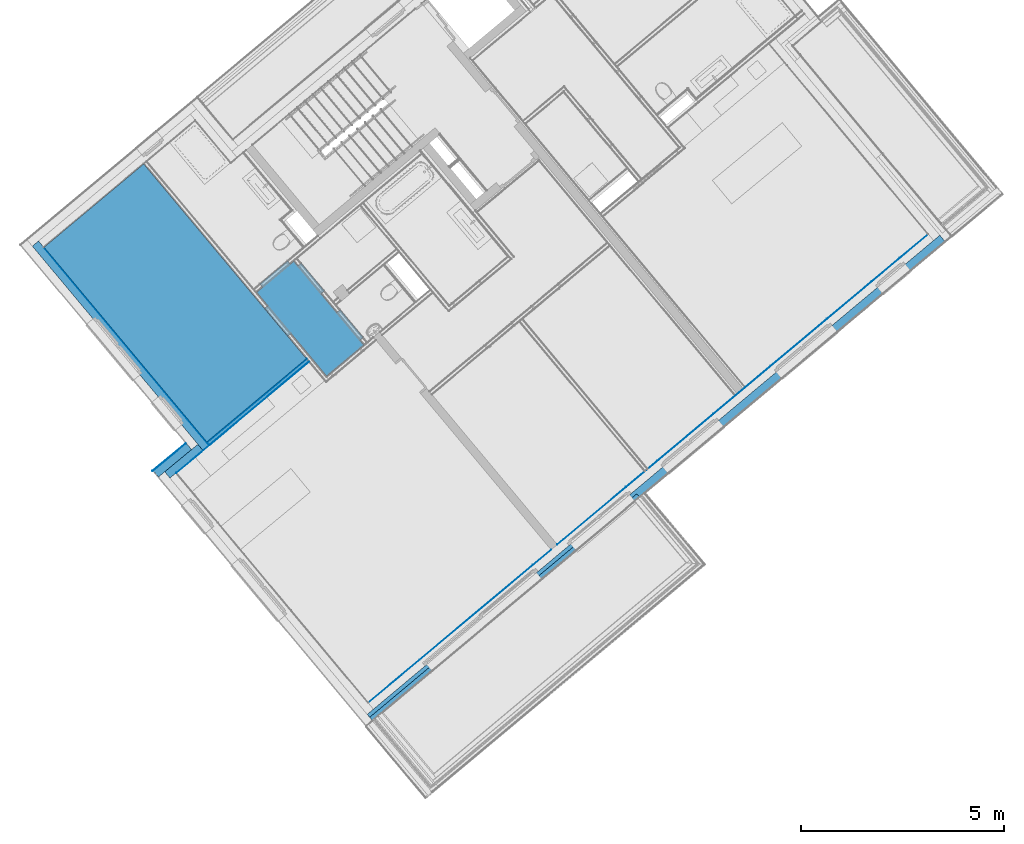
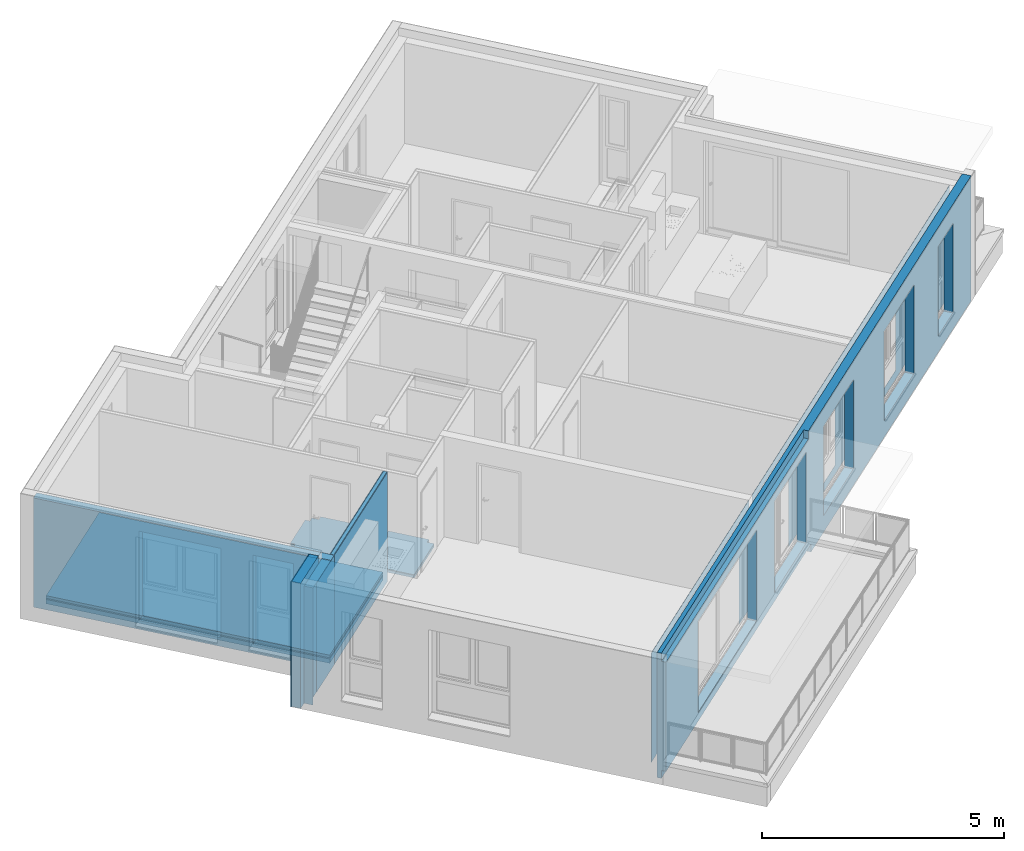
# One storey, part 25 of 53: 17 building element parts, 7 openings, 6 elements without a shape of their own.
"""IFC4 building model written with IfcOpenShell, lengths in metres."""

from ifc_helpers import new_model, entity, si_unit, converted_unit, derived_unit, direction, frame, origin_with_axes, place, context, subcontext, project, spatial, polygons, material, type_object, element, aggregate, save


model = new_model("IFC4")

# Units and contexts
model_context = context("Model", 3, precision=1e-05, world=origin_with_axes(), true_north=direction((0.0, 1.0)))
body_context = subcontext(model_context, "Body", "Model", "MODEL_VIEW")
ifc_project = project(units=[si_unit("LENGTHUNIT", "METRE"), si_unit("AREAUNIT", "SQUARE_METRE"), si_unit("VOLUMEUNIT", "CUBIC_METRE"), converted_unit("PLANEANGLEUNIT", "DEGREE", entity("IfcPlaneAngleMeasure", 0.0174532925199), si_unit("PLANEANGLEUNIT", "RADIAN"), dimensions=[0, 0, 0, 0, 0, 0, 0]), converted_unit("TIMEUNIT", "Year", entity("IfcTimeMeasure", 31556926.0), si_unit("TIMEUNIT", "SECOND"), dimensions=[0, 0, 1, 0, 0, 0, 0]), si_unit("MASSUNIT", "GRAM", prefix="KILO"), si_unit("THERMODYNAMICTEMPERATUREUNIT", "DEGREE_CELSIUS"), si_unit("LUMINOUSINTENSITYUNIT", "LUMEN"), si_unit("ENERGYUNIT", "JOULE", prefix="MEGA"), derived_unit("THERMALCONDUCTANCEUNIT", [(si_unit("POWERUNIT", "WATT"), 1), (si_unit("LENGTHUNIT", "METRE"), -1), (si_unit("THERMODYNAMICTEMPERATUREUNIT", "KELVIN"), -1)]), derived_unit("SPECIFICHEATCAPACITYUNIT", [(si_unit("ENERGYUNIT", "JOULE"), 1), (si_unit("MASSUNIT", "GRAM", prefix="KILO"), -1), (si_unit("THERMODYNAMICTEMPERATUREUNIT", "KELVIN"), -1)]), derived_unit("MASSDENSITYUNIT", [(si_unit("MASSUNIT", "GRAM", prefix="KILO"), 1), (si_unit("VOLUMEUNIT", "CUBIC_METRE"), -1)])], contexts=[model_context])

# Site, building, storey
site_placement = place(None, frame((-0.00153261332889, -0.00661245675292, 0.0), z_axis=(0.0, 0.0, 1.0), x_axis=(1.0, 0.0, 0.0)))
site = spatial("IfcSite", under=ifc_project, at=site_placement, Name="Gelände", CompositionType="ELEMENT")
building_placement = place(site_placement, origin_with_axes())
building = spatial("IfcBuilding", under=site, at=building_placement, Name="Gebäude", CompositionType="ELEMENT")
storey_placement = place(building_placement, frame((0.0, 0.0, 2.74), z_axis=(0.0, 0.0, 1.0), x_axis=(1.0, 0.0, 0.0)))
storey = spatial("IfcBuildingStorey", under=building, at=storey_placement, Name="OG1", CompositionType="ELEMENT", Elevation=2.74)

# Wall, building element parts
wall_type_1 = type_object("IfcWallType", Name="IW LB 01 Leichtbautrennwand einfach 10,5 cm 105", PredefinedType="NOTDEFINED")
wall_1_placement = place(storey_placement, frame((-2.49988703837, 17.264591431, 0.0), z_axis=(0.0, 0.0, 1.0), x_axis=(-0.767365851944, -0.641209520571, 0.0)))
wall_1 = element("IfcWall", 1, at=wall_1_placement, inside=storey, type_object=wall_type_1, Name="Wand-012", PredefinedType="NOTDEFINED")
ifc_material_1 = material(Name="Gipskarton")
building_element_part_1_placement = place(wall_1_placement, origin_with_axes())
building_element_part_1 = element("IfcBuildingElementPart", 2, at=building_element_part_1_placement, material=ifc_material_1, Name="Gipskarton", PredefinedType="NOTDEFINED", context=body_context, shape_type="Tessellation", body=[
    polygons([(3.20025354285, 0.105, 0.0), (3.20025354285, 0.09, 0.0), (0.0, 0.09, 0.0), (0.0, 0.105, 0.0), (3.20025354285, 0.105, 2.76), (3.20025354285, 0.09, 2.76), (0.0, 0.09, 2.76), (0.0, 0.105, 2.76)], [[[1, 2, 3, 4]], [[1, 5, 6, 2]], [[2, 6, 7, 3]], [[4, 3, 7, 8]], [[5, 1, 4, 8]], [[6, 5, 8, 7]]], closed=True),
])
ifc_material_2 = material(Name="Mineralwolle weich")
building_element_part_2_placement = place(wall_1_placement, origin_with_axes())
building_element_part_2 = element("IfcBuildingElementPart", 3, at=building_element_part_2_placement, material=ifc_material_2, Name="Mineralwolle weich", PredefinedType="NOTDEFINED", context=body_context, shape_type="Tessellation", body=[
    polygons([(3.20025354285, 0.09, 0.0), (3.20025354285, 0.015, 0.0), (0.0, 0.015, 0.0), (0.0, 0.09, 0.0), (3.20025354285, 0.09, 2.76), (3.20025354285, 0.015, 2.76), (0.0, 0.015, 2.76), (0.0, 0.09, 2.76)], [[[1, 2, 3, 4]], [[1, 5, 6, 2]], [[2, 6, 7, 3]], [[4, 3, 7, 8]], [[5, 1, 4, 8]], [[6, 5, 8, 7]]], closed=True),
])
building_element_part_3_placement = place(wall_1_placement, origin_with_axes())
building_element_part_3 = element("IfcBuildingElementPart", 4, at=building_element_part_3_placement, material=ifc_material_1, Name="Gipskarton", PredefinedType="NOTDEFINED", context=body_context, shape_type="Tessellation", body=[
    polygons([(3.20025354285, 0.015, 0.0), (3.20025354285, 0.0, 0.0), (0.0, 0.0, 0.0), (0.0, 0.015, 0.0), (3.20025354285, 0.015, 2.76), (3.20025354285, 0.0, 2.76), (0.0, 0.0, 2.76), (0.0, 0.015, 2.76)], [[[1, 2, 3, 4]], [[1, 5, 6, 2]], [[2, 6, 7, 3]], [[4, 3, 7, 8]], [[5, 1, 4, 8]], [[6, 5, 8, 7]]], closed=True),
])
aggregate(wall_1, [building_element_part_1, building_element_part_2, building_element_part_3])

# Wall, openings, building element parts
wall_type_2 = type_object("IfcWallType", Name="AW EG 420", PredefinedType="NOTDEFINED")
wall_2_placement = place(storey_placement, frame((-9.41819565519, 19.8980836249, -0.2), z_axis=(0.0, 0.0, 1.0), x_axis=(0.641209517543, -0.767365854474, 0.0)))
wall_2 = element("IfcWall", 5, at=wall_2_placement, inside=storey, type_object=wall_type_2, Name="Wand-002", PredefinedType="NOTDEFINED")
opening_1_placement = place(wall_2_placement, frame((3.23195130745, 0.0, 0.42), z_axis=(0.0, 0.0, 1.0), x_axis=(1.0, 0.0, 0.0)))
element("IfcOpeningElement", 6, at=opening_1_placement, cuts=wall_2, Name="Fenster-001", context=body_context, identifier="Reference", shape_type="Tessellation", body=[
    polygons([(0.9, 0.215, 0.0), (0.9, 0.215, 2.26), (0.9, -3.02322744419, 2.26), (0.9, -3.02322744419, 0.0), (0.9, 3.44322744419, 0.0), (0.9, 3.44322744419, 2.26), (-0.9, 0.215, 2.26), (-0.9, -3.02322744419, 2.26), (-0.9, 3.44322744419, 2.26), (-0.9, -3.02322744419, 0.0), (-0.9, 0.215, 0.0), (-0.9, 3.44322744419, 0.0)], [[[1, 2, 3, 4]], [[2, 1, 5, 6]], [[7, 8, 3, 2, 6, 9]], [[8, 10, 4, 3]], [[1, 4, 10, 11, 12, 5]], [[6, 5, 12, 9]], [[7, 11, 10, 8]], [[11, 7, 9, 12]]], closed=True),
])
opening_2_placement = place(wall_2_placement, frame((5.28601932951, 0.0, 0.42), z_axis=(0.0, 0.0, 1.0), x_axis=(1.0, 0.0, 0.0)))
element("IfcOpeningElement", 7, at=opening_2_placement, cuts=wall_2, Name="Fenster-001", context=body_context, identifier="Reference", shape_type="Tessellation", body=[
    polygons([(0.45, 0.215, 0.0), (0.45, 0.215, 2.26), (0.45, -3.02322744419, 2.26), (0.45, -3.02322744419, 0.0), (0.45, 3.44322744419, 0.0), (0.45, 3.44322744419, 2.26), (-0.45, 0.215, 2.26), (-0.45, -3.02322744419, 2.26), (-0.45, 3.44322744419, 2.26), (-0.45, -3.02322744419, 0.0), (-0.45, 0.215, 0.0), (-0.45, 3.44322744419, 0.0)], [[[1, 2, 3, 4]], [[2, 1, 5, 6]], [[7, 8, 3, 2, 6, 9]], [[8, 10, 4, 3]], [[1, 4, 10, 11, 12, 5]], [[6, 5, 12, 9]], [[7, 11, 10, 8]], [[11, 7, 9, 12]]], closed=True),
])
ifc_material_3 = material(Name="Zementputz")
building_element_part_4_placement = place(wall_2_placement, origin_with_axes())
building_element_part_4 = element("IfcBuildingElementPart", 8, at=building_element_part_4_placement, material=ifc_material_3, Name="Zementputz", PredefinedType="NOTDEFINED", context=body_context, shape_type="Tessellation", body=[
    polygons([(0.200001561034, 0.415, 0.2), (6.56325264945, 0.415, 0.2), (6.56325264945, 0.415, 2.96), (0.200001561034, 0.415, 2.96), (2.33195130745, 0.415, 2.68), (4.13195130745, 0.415, 2.68), (4.13195130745, 0.415, 0.42), (2.33195130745, 0.415, 0.42), (4.83601932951, 0.415, 0.42), (4.83601932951, 0.415, 2.68), (5.73601932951, 0.415, 2.68), (5.73601932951, 0.415, 0.42), (0.200001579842, 0.42, 0.2), (6.56326518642, 0.42, 0.2), (6.56326518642, 0.42, 2.96), (0.200001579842, 0.42, 2.96), (4.13195130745, 0.42, 2.68), (2.33195130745, 0.42, 2.68), (4.13195130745, 0.42, 0.42), (2.33195130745, 0.42, 0.42), (4.83601932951, 0.42, 0.42), (4.83601932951, 0.42, 2.68), (5.73601932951, 0.42, 2.68), (5.73601932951, 0.42, 0.42)], [[[1, 2, 3, 4], [5, 6, 7, 8], [9, 10, 11, 12]], [[1, 13, 14, 2]], [[2, 14, 15, 3]], [[16, 4, 3, 15]], [[13, 1, 4, 16]], [[17, 6, 5, 18]], [[19, 7, 6, 17]], [[20, 8, 7, 19]], [[18, 5, 8, 20]], [[21, 22, 10, 9]], [[22, 23, 11, 10]], [[23, 24, 12, 11]], [[24, 21, 9, 12]], [[13, 16, 15, 14], [19, 17, 18, 20], [21, 24, 23, 22]]], closed=True),
])
ifc_material_4 = material(Name="Stahlbeton Wand")
building_element_part_5_placement = place(wall_2_placement, origin_with_axes())
building_element_part_5 = element("IfcBuildingElementPart", 9, at=building_element_part_5_placement, material=ifc_material_4, Name="Stahlbeton Wand", PredefinedType="NOTDEFINED", context=body_context, shape_type="Tessellation", body=[
    polygons([(6.35775052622, 0.215, 2.96), (3.41079591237e-08, 0.214999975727, 2.96), (3.41079591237e-08, 0.214999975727, 0.2), (6.35154585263, 0.215000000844, 0.2), (6.55775115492, 0.215, 0.2), (6.55775115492, 0.215, 2.96), (2.33195130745, 0.215, 2.68), (4.13195130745, 0.215, 2.68), (4.13195130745, 0.215, 0.42), (2.33195130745, 0.215, 0.42), (4.83601932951, 0.215, 0.42), (4.83601932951, 0.215, 2.68), (5.73601932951, 0.215, 2.68), (5.73601932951, 0.215, 0.42), (6.55825263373, 0.415, 2.96), (8.15811869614e-07, 0.415000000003, 2.96), (3.33203509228e-08, 0.415, 0.2), (6.55825263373, 0.415, 0.2), (4.13195130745, 0.415000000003, 2.68), (2.33195130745, 0.415000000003, 2.68), (4.13195130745, 0.415000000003, 0.42), (2.33195130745, 0.415000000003, 0.42), (4.83601932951, 0.415, 0.42), (4.83601932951, 0.415, 2.68), (5.73601932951, 0.415, 2.68), (5.73601932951, 0.415, 0.42)], [[[1, 2, 3, 4, 5, 6], [7, 8, 9, 10], [11, 12, 13, 14]], [[1, 6, 15, 16, 2]], [[17, 3, 2, 16]], [[17, 18, 5, 4, 3]], [[5, 18, 15, 6]], [[19, 8, 7, 20]], [[21, 9, 8, 19]], [[22, 10, 9, 21]], [[20, 7, 10, 22]], [[23, 24, 12, 11]], [[24, 25, 13, 12]], [[25, 26, 14, 13]], [[26, 23, 11, 14]], [[18, 17, 16, 15], [21, 19, 20, 22], [23, 26, 25, 24]]], closed=True),
])
aggregate(wall_2, [building_element_part_4, building_element_part_5])

# Wall, building element parts
wall_3_placement = place(storey_placement, frame((-5.47975165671, 15.1847608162, -0.2), z_axis=(0.0, 0.0, 1.0), x_axis=(-0.768971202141, -0.639283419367, 0.0)))
wall_3 = element("IfcWall", 10, at=wall_3_placement, inside=storey, type_object=wall_type_2, Name="Wand-002", PredefinedType="NOTDEFINED")
building_element_part_6_placement = place(wall_3_placement, origin_with_axes())
building_element_part_6 = element("IfcBuildingElementPart", 11, at=building_element_part_6_placement, material=ifc_material_3, Name="Zementputz", PredefinedType="NOTDEFINED", context=body_context, shape_type="Tessellation", body=[
    polygons([(-0.41604187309, 0.415, 2.96), (-0.41605441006, 0.42, 2.96), (-0.41605441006, 0.42, 0.2), (-0.41604187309, 0.415, 0.2), (0.6457611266, 0.42, 2.96), (0.645771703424, 0.415, 2.96), (0.6457611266, 0.42, 0.2), (0.645771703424, 0.415, 0.2)], [[[1, 2, 3, 4]], [[5, 2, 1, 6]], [[2, 5, 7, 3]], [[4, 3, 7, 8]], [[6, 1, 4, 8]], [[5, 6, 8, 7]]], closed=True),
])
building_element_part_7_placement = place(wall_3_placement, origin_with_axes())
building_element_part_7 = element("IfcBuildingElementPart", 12, at=building_element_part_7_placement, material=ifc_material_4, Name="Stahlbeton Wand", PredefinedType="NOTDEFINED", context=body_context, shape_type="Tessellation", body=[
    polygons([(-0.215539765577, 0.215, 2.96), (-0.216041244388, 0.415, 2.96), (-0.216041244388, 0.415, 0.2), (-0.215539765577, 0.215, 0.2), (0.8457721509, 0.415, 2.96), (0.846195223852, 0.215, 2.96), (0.8457721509, 0.415, 0.0), (0.845610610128, 0.415, 0.0), (0.845610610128, 0.415, 0.2), (0.846111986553, 0.215, 0.2), (0.846111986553, 0.215, 0.0), (0.846195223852, 0.215, 0.0)], [[[1, 2, 3, 4]], [[5, 2, 1, 6]], [[2, 5, 7, 8, 9, 3]], [[4, 3, 9, 10]], [[6, 1, 4, 10, 11, 12]], [[5, 6, 12, 7]], [[11, 8, 7, 12]], [[9, 8, 11, 10]]], closed=True),
])
ifc_material_5 = material(Name="EPS 1")
building_element_part_8_placement = place(wall_3_placement, origin_with_axes())
building_element_part_8 = element("IfcBuildingElementPart", 13, at=building_element_part_8_placement, material=ifc_material_5, Name="EPS 1", PredefinedType="NOTDEFINED", context=body_context, shape_type="Tessellation", body=[
    polygons([(0.846111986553, 0.215, 0.0), (0.846111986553, 0.215, 0.2), (-0.0155391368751, 0.215, 0.2), (-0.0155391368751, 0.215, 3.16), (1.04619567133, 0.215, 3.16), (1.04619567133, 0.215, 0.0), (0.846119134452, 0.212148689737, 0.0), (0.846119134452, 0.212148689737, 0.2), (-0.0155251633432, 0.209427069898, 0.2), (-0.0155251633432, 0.209427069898, 0.0), (-0.0150376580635, 0.015, 0.0), (-0.0150376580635, 0.015, 3.16), (1.04661874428, 0.015, 3.16), (1.04661874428, 0.015, 0.0)], [[[1, 2, 3, 4, 5, 6]], [[2, 1, 7, 8]], [[9, 3, 2, 8]], [[9, 10, 11, 12, 4, 3]], [[13, 5, 4, 12]], [[14, 6, 5, 13]], [[7, 1, 6, 14, 11, 10]], [[10, 9, 8, 7]], [[14, 13, 12, 11]]], closed=True),
])
building_element_part_9_placement = place(wall_3_placement, origin_with_axes())
building_element_part_9 = element("IfcBuildingElementPart", 14, at=building_element_part_9_placement, material=ifc_material_3, Name="Zementputz", PredefinedType="NOTDEFINED", context=body_context, shape_type="Tessellation", body=[
    polygons([(1.06161877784, 0.015, 0.0), (1.06165050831, 0.0, 0.0), (0.0, 0.0, 0.0), (-3.76109108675e-05, 0.015, 0.0), (1.06161877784, 0.015, 3.16), (1.06165050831, 0.0, 3.16), (0.0, 0.0, 3.16), (-3.76109108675e-05, 0.015, 3.16)], [[[1, 2, 3, 4]], [[2, 1, 5, 6]], [[2, 6, 7, 3]], [[8, 4, 3, 7]], [[5, 1, 4, 8]], [[6, 5, 8, 7]]], closed=True),
])
aggregate(wall_3, [building_element_part_6, building_element_part_7, building_element_part_8, building_element_part_9])

# Covering, building element parts
covering_type_1 = type_object("IfcCoveringType", Name="DE 01 Decke Wohnung/Wohnung Parkett 220", PredefinedType="NOTDEFINED")
covering_1_placement = place(storey_placement, frame((-8.96445404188, 20.0100816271, 0.22), z_axis=(0.0, 0.0, 1.0), x_axis=(1.0, 0.0, 0.0)))
covering_1 = element("IfcCovering", 15, at=covering_1_placement, inside=storey, type_object=covering_type_1, Name="Decke-009", PredefinedType="NOTDEFINED")
ifc_material_6 = material(Name="Parkett")
building_element_part_10_placement = place(covering_1_placement, origin_with_axes())
building_element_part_10 = element("IfcBuildingElementPart", 16, at=building_element_part_10_placement, material=ifc_material_6, Name="Parkett", PredefinedType="NOTDEFINED", context=body_context, shape_type="Tessellation", body=[
    polygons([(0.0, 0.0, 0.0), (0.0, 0.0, -0.015), (4.00880176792, -4.79752323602, -0.015), (4.00880176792, -4.79752323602, 0.0), (2.45576526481, 2.05203299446, 0.0), (2.45576526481, 2.05203299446, -0.015), (6.4645670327, -2.74549024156, -0.015), (6.4645670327, -2.74549024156, 0.0)], [[[1, 2, 3, 4]], [[5, 6, 2, 1]], [[3, 2, 6, 7]], [[4, 3, 7, 8]], [[5, 1, 4, 8]], [[8, 7, 6, 5]]], closed=True),
])
ifc_material_7 = material(Name="Estrich")
building_element_part_11_placement = place(covering_1_placement, origin_with_axes())
building_element_part_11 = element("IfcBuildingElementPart", 17, at=building_element_part_11_placement, material=ifc_material_7, Name="Estrich", PredefinedType="NOTDEFINED", context=body_context, shape_type="Tessellation", body=[
    polygons([(0.0, 0.0, -0.015), (0.0, 0.0, -0.08), (4.00880176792, -4.79752323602, -0.08), (4.00880176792, -4.79752323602, -0.015), (2.45576526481, 2.05203299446, -0.015), (2.45576526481, 2.05203299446, -0.08), (6.4645670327, -2.74549024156, -0.08), (6.4645670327, -2.74549024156, -0.015)], [[[1, 2, 3, 4]], [[5, 6, 2, 1]], [[3, 2, 6, 7]], [[4, 3, 7, 8]], [[5, 1, 4, 8]], [[8, 7, 6, 5]]], closed=True),
])
ifc_material_8 = material(Name="Trittschalldämmung")
building_element_part_12_placement = place(covering_1_placement, origin_with_axes())
building_element_part_12 = element("IfcBuildingElementPart", 18, at=building_element_part_12_placement, material=ifc_material_8, Name="Trittschalldämmung", PredefinedType="NOTDEFINED", context=body_context, shape_type="Tessellation", body=[
    polygons([(0.0, 0.0, -0.08), (0.0, 0.0, -0.11), (4.00880176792, -4.79752323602, -0.11), (4.00880176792, -4.79752323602, -0.08), (2.45576526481, 2.05203299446, -0.08), (2.45576526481, 2.05203299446, -0.11), (6.4645670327, -2.74549024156, -0.11), (6.4645670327, -2.74549024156, -0.08)], [[[1, 2, 3, 4]], [[5, 6, 2, 1]], [[3, 2, 6, 7]], [[4, 3, 7, 8]], [[5, 1, 4, 8]], [[8, 7, 6, 5]]], closed=True),
])
ifc_material_9 = material(Name="Schüttung")
building_element_part_13_placement = place(covering_1_placement, origin_with_axes())
building_element_part_13 = element("IfcBuildingElementPart", 19, at=building_element_part_13_placement, material=ifc_material_9, Name="Schüttung", PredefinedType="NOTDEFINED", context=body_context, shape_type="Tessellation", body=[
    polygons([(4.00880176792, -4.79752323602, -0.11), (0.0, 0.0, -0.11), (0.0, 0.0, -0.22), (4.00880176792, -4.79752323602, -0.22), (2.45576526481, 2.05203299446, -0.11), (6.4645670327, -2.74549024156, -0.11), (2.45576526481, 2.05203299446, -0.22), (6.4645670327, -2.74549024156, -0.22)], [[[1, 2, 3, 4]], [[5, 2, 1, 6]], [[2, 5, 7, 3]], [[4, 3, 7, 8]], [[6, 1, 4, 8]], [[5, 6, 8, 7]]], closed=True),
])
aggregate(covering_1, [building_element_part_10, building_element_part_11, building_element_part_12, building_element_part_13])

# Space
space_1_placement = place(storey_placement, frame((-3.73003284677, 18.9005183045, 0.0), z_axis=(0.0, 0.0, 1.0), x_axis=(0.641209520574, -0.767365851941, 0.0)))
space_1 = spatial("IfcSpace", under=storey, at=space_1_placement, CompositionType="ELEMENT", PredefinedType="NOTDEFINED")

# Covering, building element parts
covering_type_2 = type_object("IfcCoveringType", Name="DE 01 Decke Wohnung/Wohnung Fließen 220", PredefinedType="NOTDEFINED")
covering_2_placement = place(space_1_placement, frame((-0.000120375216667, 0.192623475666, 0.22), z_axis=(0.0, 0.0, 1.0), x_axis=(0.641209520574, 0.767365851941, 0.0)))
covering_2 = element("IfcCovering", 20, at=covering_2_placement, inside=space_1, type_object=covering_type_2, Name="Decke-003", PredefinedType="NOTDEFINED")
ifc_material_10 = material(Name="Fliesen")
building_element_part_14_placement = place(covering_2_placement, origin_with_axes())
building_element_part_14 = element("IfcBuildingElementPart", 21, at=building_element_part_14_placement, material=ifc_material_10, Name="Fliesen", PredefinedType="NOTDEFINED", context=body_context, shape_type="Tessellation", body=[
    polygons([(0.772026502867, 0.645686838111, -0.015), (0.772026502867, 0.645686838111, 0.0), (0.871992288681, 0.526053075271, 0.0), (0.871992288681, 0.526053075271, -0.015), (0.682704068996, 0.570977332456, 0.0), (0.682704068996, 0.570977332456, -0.015), (0.6825988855, 0.57110308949, 0.0), (0.615338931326, 0.651518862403, 0.0), (-0.0673464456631, 0.0805191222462, 0.0), (-1.94673654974e-08, -1.62825521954e-08, 0.0), (1.87046381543e-05, -2.24027601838e-05, 0.0), (-0.147735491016, -0.123604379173, 0.0), (0.13108354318, -0.457280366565, 0.0), (0.0505101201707, -0.524607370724, 0.0), (0.621186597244, -1.20756298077, 0.0), (0.701760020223, -1.14023597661, 0.0), (1.57974343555, -2.1909603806, 0.0), (2.49986944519, -1.42210479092, 0.0), (2.40026170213, -1.30289938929, 0.0), (2.48083508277, -1.23557242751, 0.0), (1.91015864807, -0.552616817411, 0.0), (1.82958522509, -0.61994382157, 0.0), (1.44266872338, -0.156902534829, 0.0), (1.52324214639, -0.0895755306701, 0.0), (0.952565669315, 0.59338007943, 0.0), (0.952565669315, 0.59338007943, -0.015), (1.52324214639, -0.0895755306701, -0.015), (1.44266872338, -0.156902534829, -0.015), (1.82958522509, -0.61994382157, -0.015), (1.91015864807, -0.552616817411, -0.015), (2.48083508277, -1.23557242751, -0.015), (2.40026170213, -1.30289938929, -0.015), (2.49986944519, -1.42210479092, -0.015), (1.57974343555, -2.1909603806, -0.015), (0.701760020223, -1.14023597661, -0.015), (0.621186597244, -1.20756298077, -0.015), (0.0505101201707, -0.524607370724, -0.015), (0.13108354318, -0.457280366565, -0.015), (-0.147735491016, -0.123604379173, -0.015), (1.87046381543e-05, -2.24027601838e-05, -0.015), (-1.94673654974e-08, -1.62825521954e-08, -0.015), (-0.0673464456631, 0.0805191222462, -0.015), (0.615338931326, 0.651518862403, -0.015), (0.6825988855, 0.57110308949, -0.015)], [[[1, 2, 3, 4]], [[5, 2, 1, 6]], [[5, 7, 8, 9, 10, 11, 12, 13, 14, 15, 16, 17, 18, 19, 20, 21, 22, 23, 24, 25, 3, 2]], [[26, 4, 3, 25]], [[6, 1, 4, 26, 27, 28, 29, 30, 31, 32, 33, 34, 35, 36, 37, 38, 39, 40, 41, 42, 43, 44]], [[7, 5, 6, 44]], [[7, 44, 43, 8]], [[43, 42, 9, 8]], [[41, 10, 9, 42]], [[11, 10, 41, 40]], [[12, 11, 40, 39]], [[12, 39, 38, 13]], [[38, 37, 14, 13]], [[37, 36, 15, 14]], [[36, 35, 16, 15]], [[35, 34, 17, 16]], [[34, 33, 18, 17]], [[33, 32, 19, 18]], [[32, 31, 20, 19]], [[31, 30, 21, 20]], [[30, 29, 22, 21]], [[29, 28, 23, 22]], [[28, 27, 24, 23]], [[27, 26, 25, 24]]], closed=True),
])
building_element_part_15_placement = place(covering_2_placement, origin_with_axes())
building_element_part_15 = element("IfcBuildingElementPart", 22, at=building_element_part_15_placement, material=ifc_material_7, Name="Estrich", PredefinedType="NOTDEFINED", context=body_context, shape_type="Tessellation", body=[
    polygons([(0.772026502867, 0.645686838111, -0.08), (0.772026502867, 0.645686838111, -0.015), (0.871992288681, 0.526053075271, -0.015), (0.871992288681, 0.526053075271, -0.08), (0.682704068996, 0.570977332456, -0.015), (0.682704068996, 0.570977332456, -0.08), (0.6825988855, 0.57110308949, -0.015), (0.615338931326, 0.651518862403, -0.015), (-0.0673464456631, 0.0805191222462, -0.015), (-1.94673654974e-08, -1.62825521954e-08, -0.015), (1.87046381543e-05, -2.24027601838e-05, -0.015), (-0.147735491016, -0.123604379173, -0.015), (0.13108354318, -0.457280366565, -0.015), (0.0505101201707, -0.524607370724, -0.015), (0.621186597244, -1.20756298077, -0.015), (0.701760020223, -1.14023597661, -0.015), (1.57974343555, -2.1909603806, -0.015), (2.49986944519, -1.42210479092, -0.015), (2.40026170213, -1.30289938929, -0.015), (2.48083508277, -1.23557242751, -0.015), (1.91015864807, -0.552616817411, -0.015), (1.82958522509, -0.61994382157, -0.015), (1.44266872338, -0.156902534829, -0.015), (1.52324214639, -0.0895755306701, -0.015), (0.952565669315, 0.59338007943, -0.015), (0.952565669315, 0.59338007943, -0.08), (1.52324214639, -0.0895755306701, -0.08), (1.44266872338, -0.156902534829, -0.08), (1.82958522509, -0.61994382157, -0.08), (1.91015864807, -0.552616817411, -0.08), (2.48083508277, -1.23557242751, -0.08), (2.40026170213, -1.30289938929, -0.08), (2.49986944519, -1.42210479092, -0.08), (1.57974343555, -2.1909603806, -0.08), (0.701760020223, -1.14023597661, -0.08), (0.621186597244, -1.20756298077, -0.08), (0.0505101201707, -0.524607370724, -0.08), (0.13108354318, -0.457280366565, -0.08), (-0.147735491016, -0.123604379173, -0.08), (1.87046381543e-05, -2.24027601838e-05, -0.08), (-1.94673654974e-08, -1.62825521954e-08, -0.08), (-0.0673464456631, 0.0805191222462, -0.08), (0.615338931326, 0.651518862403, -0.08), (0.6825988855, 0.57110308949, -0.08)], [[[1, 2, 3, 4]], [[5, 2, 1, 6]], [[5, 7, 8, 9, 10, 11, 12, 13, 14, 15, 16, 17, 18, 19, 20, 21, 22, 23, 24, 25, 3, 2]], [[26, 4, 3, 25]], [[6, 1, 4, 26, 27, 28, 29, 30, 31, 32, 33, 34, 35, 36, 37, 38, 39, 40, 41, 42, 43, 44]], [[7, 5, 6, 44]], [[7, 44, 43, 8]], [[43, 42, 9, 8]], [[41, 10, 9, 42]], [[11, 10, 41, 40]], [[12, 11, 40, 39]], [[12, 39, 38, 13]], [[38, 37, 14, 13]], [[37, 36, 15, 14]], [[36, 35, 16, 15]], [[35, 34, 17, 16]], [[34, 33, 18, 17]], [[33, 32, 19, 18]], [[32, 31, 20, 19]], [[31, 30, 21, 20]], [[30, 29, 22, 21]], [[29, 28, 23, 22]], [[28, 27, 24, 23]], [[27, 26, 25, 24]]], closed=True),
])
aggregate(covering_2, [building_element_part_14, building_element_part_15])

# Space
space_2_placement = place(storey_placement, frame((5.82112883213, 13.939405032, 0.22), z_axis=(0.0, 0.0, 1.0), x_axis=(-0.766948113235, -0.641709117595, 0.0)))
space_2 = spatial("IfcSpace", under=storey, at=space_2_placement, CompositionType="ELEMENT", PredefinedType="NOTDEFINED")

# Wall, openings, building element parts
wall_4_placement = place(space_2_placement, frame((8.93824358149, 0.0, -0.42), z_axis=(0.0, 0.0, 1.0), x_axis=(-1.0, 0.0, 0.0)))
wall_4 = element("IfcWall", 23, at=wall_4_placement, inside=space_2, type_object=wall_type_2, Name="Wand-003", PredefinedType="NOTDEFINED")
opening_3_placement = place(wall_4_placement, frame((10.6004380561, 0.0, 0.42), z_axis=(0.0, 0.0, 1.0), x_axis=(1.0, 0.0, 0.0)))
element("IfcOpeningElement", 24, at=opening_3_placement, cuts=wall_4, Name="Fenster-001", context=body_context, identifier="Reference", shape_type="Tessellation", body=[
    polygons([(0.9, 0.215, 0.0), (0.9, 0.215, 2.26), (0.9, -9.26201689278, 2.26), (0.9, -9.26201689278, 0.0), (0.9, 9.68201689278, 0.0), (0.9, 9.68201689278, 2.26), (-0.9, 0.215, 2.26), (-0.9, -9.26201689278, 2.26), (-0.9, 9.68201689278, 2.26), (-0.9, -9.26201689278, 0.0), (-0.9, 0.215, 0.0), (-0.9, 9.68201689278, 0.0)], [[[1, 2, 3, 4]], [[2, 1, 5, 6]], [[7, 8, 3, 2, 6, 9]], [[8, 10, 4, 3]], [[1, 4, 10, 11, 12, 5]], [[6, 5, 12, 9]], [[7, 11, 10, 8]], [[11, 7, 9, 12]]], closed=True),
])
opening_4_placement = place(wall_4_placement, frame((14.2457711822, 0.0, 0.42), z_axis=(0.0, 0.0, 1.0), x_axis=(1.0, 0.0, 0.0)))
element("IfcOpeningElement", 25, at=opening_4_placement, cuts=wall_4, Name="Fenster-001", context=body_context, identifier="Reference", shape_type="Tessellation", body=[
    polygons([(0.9, 0.215, 0.0), (0.9, 0.215, 2.26), (0.9, -9.26201689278, 2.26), (0.9, -9.26201689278, 0.0), (0.9, 9.68201689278, 0.0), (0.9, 9.68201689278, 2.26), (-0.9, 0.215, 2.26), (-0.9, -9.26201689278, 2.26), (-0.9, 9.68201689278, 2.26), (-0.9, -9.26201689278, 0.0), (-0.9, 0.215, 0.0), (-0.9, 9.68201689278, 0.0)], [[[1, 2, 3, 4]], [[2, 1, 5, 6]], [[7, 8, 3, 2, 6, 9]], [[8, 10, 4, 3]], [[1, 4, 10, 11, 12, 5]], [[6, 5, 12, 9]], [[7, 11, 10, 8]], [[11, 7, 9, 12]]], closed=True),
])
opening_5_placement = place(wall_4_placement, frame((17.0441783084, 0.0, 0.42), z_axis=(0.0, 0.0, 1.0), x_axis=(1.0, 0.0, 0.0)))
element("IfcOpeningElement", 26, at=opening_5_placement, cuts=wall_4, Name="Fenster-001", context=body_context, identifier="Reference", shape_type="Tessellation", body=[
    polygons([(0.45, 0.215, 0.0), (0.45, 0.215, 2.26), (0.45, -9.26201689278, 2.26), (0.45, -9.26201689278, 0.0), (0.45, 9.68201689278, 0.0), (0.45, 9.68201689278, 2.26), (-0.45, 0.215, 2.26), (-0.45, -9.26201689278, 2.26), (-0.45, 9.68201689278, 2.26), (-0.45, -9.26201689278, 0.0), (-0.45, 0.215, 0.0), (-0.45, 9.68201689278, 0.0)], [[[1, 2, 3, 4]], [[2, 1, 5, 6]], [[7, 8, 3, 2, 6, 9]], [[8, 10, 4, 3]], [[1, 4, 10, 11, 12, 5]], [[6, 5, 12, 9]], [[7, 11, 10, 8]], [[11, 7, 9, 12]]], closed=True),
])
opening_6_placement = place(wall_4_placement, frame((7.69593230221, 0.0, 0.42), z_axis=(0.0, 0.0, 1.0), x_axis=(1.0, 0.0, 0.0)))
element("IfcOpeningElement", 27, at=opening_6_placement, cuts=wall_4, Name="Tür-002", context=body_context, identifier="Reference", shape_type="Tessellation", body=[
    polygons([(0.95, 0.215, 0.0), (0.95, 0.215, 2.31), (0.95, -9.26201689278, 2.31), (0.95, -9.26201689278, 0.0), (-1.0, 0.215, -0.22), (1.0, 0.215, -0.22), (1.0, 0.215, 2.36), (-1.0, 0.215, 2.36), (-0.95, 0.215, 2.31), (-0.95, 0.215, 0.0), (-0.95, -9.26201689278, 2.31), (-0.95, -9.26201689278, 0.0), (-1.0, 9.68201689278, -0.22), (1.0, 9.68201689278, -0.22), (1.0, 9.68201689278, 2.36), (-1.0, 9.68201689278, 2.36)], [[[1, 2, 3, 4]], [[5, 6, 7, 8], [9, 2, 1, 10]], [[2, 9, 11, 3]], [[11, 12, 4, 3]], [[10, 1, 4, 12]], [[6, 5, 13, 14]], [[7, 6, 14, 15]], [[8, 7, 15, 16]], [[5, 8, 16, 13]], [[9, 10, 12, 11]], [[15, 14, 13, 16]]], closed=True),
])
opening_7_placement = place(wall_4_placement, frame((3.88935344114, 0.0, 0.42), z_axis=(0.0, 0.0, 1.0), x_axis=(1.0, 0.0, 0.0)))
element("IfcOpeningElement", 28, at=opening_7_placement, cuts=wall_4, Name="Tür-001", context=body_context, identifier="Reference", shape_type="Tessellation", body=[
    polygons([(1.76598893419, 0.215, 0.0), (1.76598893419, 0.215, 2.31), (1.76598893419, -9.26201689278, 2.31), (1.76598893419, -9.26201689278, 0.0), (-1.81598893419, 0.215, -0.22), (1.81598893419, 0.215, -0.22), (1.81598893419, 0.215, 2.36), (-1.81598893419, 0.215, 2.36), (-1.76598893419, 0.215, 2.31), (-1.76598893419, 0.215, 0.0), (-1.76598893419, -9.26201689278, 2.31), (-1.76598893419, -9.26201689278, 0.0), (-1.81598893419, 9.68201689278, -0.22), (1.81598893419, 9.68201689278, -0.22), (1.81598893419, 9.68201689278, 2.36), (-1.81598893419, 9.68201689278, 2.36)], [[[1, 2, 3, 4]], [[5, 6, 7, 8], [9, 2, 1, 10]], [[2, 9, 11, 3]], [[11, 12, 4, 3]], [[10, 1, 4, 12]], [[6, 5, 13, 14]], [[7, 6, 14, 15]], [[8, 7, 15, 16]], [[5, 8, 16, 13]], [[9, 10, 12, 11]], [[15, 14, 13, 16]]], closed=True),
])
building_element_part_16_placement = place(wall_4_placement, origin_with_axes())
building_element_part_16 = element("IfcBuildingElementPart", 29, at=building_element_part_16_placement, material=ifc_material_3, Name="Zementputz", PredefinedType="NOTDEFINED", context=body_context, shape_type="Tessellation", body=[
    polygons([(2.07336450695, 0.415, 0.2), (2.07336450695, 0.415, 2.78), (5.70534237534, 0.415, 2.78), (5.70534237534, 0.415, 0.2), (6.28972936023, 0.415, 0.2), (6.28972936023, 0.415, 2.96), (0.420433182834, 0.415, 2.96), (0.420433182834, 0.415, 0.2), (2.07336450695, 0.42, 0.2), (2.07336450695, 0.42, 2.78), (5.70534237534, 0.42, 2.78), (5.70534237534, 0.42, 0.2), (6.28973261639, 0.42, 0.2), (6.28973261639, 0.42, 2.96), (0.420438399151, 0.42, 2.96), (0.420438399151, 0.42, 0.2)], [[[1, 2, 3, 4, 5, 6, 7, 8]], [[2, 1, 9, 10]], [[3, 2, 10, 11]], [[4, 3, 11, 12]], [[4, 12, 13, 5]], [[6, 5, 13, 14]], [[6, 14, 15, 7]], [[15, 16, 8, 7]], [[9, 1, 8, 16]], [[10, 9, 16, 15, 14, 13, 12, 11]]], closed=True),
    polygons([(6.69593230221, 0.415, 0.2), (6.69593230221, 0.415, 2.78), (8.69593230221, 0.415, 2.78), (8.69593230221, 0.415, 0.2), (18.3974477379, 0.415, 0.2), (18.3974477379, 0.415, 2.96), (6.48972940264, 0.415, 2.96), (6.48972940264, 0.415, 0.2), (11.5004380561, 0.415, 0.42), (9.70043805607, 0.415, 0.42), (9.70043805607, 0.415, 2.68), (11.5004380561, 0.415, 2.68), (15.1457711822, 0.415, 2.68), (15.1457711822, 0.415, 0.42), (13.3457711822, 0.415, 0.42), (13.3457711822, 0.415, 2.68), (16.5941783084, 0.415, 2.68), (17.4941783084, 0.415, 2.68), (17.4941783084, 0.415, 0.42), (16.5941783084, 0.415, 0.42), (6.69593230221, 0.42, 0.2), (6.69593230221, 0.42, 2.78), (8.69593230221, 0.42, 2.78), (8.69593230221, 0.42, 0.2), (18.397450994, 0.42, 0.2), (18.397450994, 0.42, 2.96), (6.4897326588, 0.42, 2.96), (6.4897326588, 0.42, 0.2), (9.70043805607, 0.42, 0.42), (11.5004380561, 0.42, 0.42), (9.70043805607, 0.42, 2.68), (11.5004380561, 0.42, 2.68), (15.1457711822, 0.42, 2.68), (15.1457711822, 0.42, 0.42), (13.3457711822, 0.42, 0.42), (13.3457711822, 0.42, 2.68), (16.5941783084, 0.42, 2.68), (17.4941783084, 0.42, 2.68), (17.4941783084, 0.42, 0.42), (16.5941783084, 0.42, 0.42)], [[[1, 2, 3, 4, 5, 6, 7, 8], [9, 10, 11, 12], [13, 14, 15, 16], [17, 18, 19, 20]], [[2, 1, 21, 22]], [[3, 2, 22, 23]], [[4, 3, 23, 24]], [[4, 24, 25, 5]], [[26, 6, 5, 25]], [[7, 6, 26, 27]], [[7, 27, 28, 8]], [[21, 1, 8, 28]], [[29, 10, 9, 30]], [[31, 11, 10, 29]], [[32, 12, 11, 31]], [[30, 9, 12, 32]], [[33, 34, 14, 13]], [[34, 35, 15, 14]], [[35, 36, 16, 15]], [[36, 33, 13, 16]], [[17, 37, 38, 18]], [[18, 38, 39, 19]], [[19, 39, 40, 20]], [[20, 40, 37, 17]], [[22, 21, 28, 27, 26, 25, 24, 23], [31, 29, 30, 32], [33, 36, 35, 34], [39, 38, 37, 40]]], closed=True),
])
building_element_part_17_placement = place(wall_4_placement, origin_with_axes())
building_element_part_17 = element("IfcBuildingElementPart", 30, at=building_element_part_17_placement, material=ifc_material_5, Name="EPS 1", PredefinedType="NOTDEFINED", context=body_context, shape_type="Tessellation", body=[
    polygons([(18.602317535, 0.215, 3.16), (18.602317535, 0.215, 0.0), (0.215224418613, 0.215, 0.0), (0.215224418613, 0.215, 3.16), (9.70043805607, 0.215, 0.42), (11.5004380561, 0.215, 0.42), (11.5004380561, 0.215, 2.68), (9.70043805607, 0.215, 2.68), (13.3457711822, 0.215, 2.68), (13.3457711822, 0.215, 0.42), (15.1457711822, 0.215, 0.42), (15.1457711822, 0.215, 2.68), (17.4941783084, 0.215, 2.68), (16.5941783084, 0.215, 2.68), (16.5941783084, 0.215, 0.42), (17.4941783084, 0.215, 0.42), (8.64593230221, 0.215, 0.42), (8.64593230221, 0.215, 2.73), (6.74593230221, 0.215, 2.73), (6.74593230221, 0.215, 0.42), (2.12336450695, 0.215, 0.42), (5.65534237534, 0.215, 0.42), (5.65534237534, 0.215, 2.73), (2.12336450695, 0.215, 2.73), (18.6021872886, 0.015, 0.0), (18.6021872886, 0.015, 3.16), (8.94882163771, 0.015, 0.0), (8.94896462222, 0.117575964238, 0.0), (0.215125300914, 0.119992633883, 0.0), (0.215125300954, 0.119992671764, 2.96), (0.215125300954, 0.119992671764, 3.16), (0.215125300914, 0.119992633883, 0.2), (0.215015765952, 0.015, 0.2), (0.215015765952, 0.015, 2.96), (8.79433640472, 0.015, 3.16), (8.79448343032, 0.119985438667, 3.16), (9.70043805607, 0.015, 0.42), (11.5004380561, 0.015, 0.42), (11.5004380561, 0.015, 2.68), (9.70043805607, 0.015, 2.68), (13.3457711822, 0.015, 2.68), (13.3457711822, 0.015, 0.42), (15.1457711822, 0.015, 0.42), (15.1457711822, 0.015, 2.68), (17.4941783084, 0.015, 2.68), (16.5941783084, 0.015, 2.68), (16.5941783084, 0.015, 0.42), (17.4941783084, 0.015, 0.42), (8.64593230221, 0.015, 2.73), (8.64593230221, 0.015, 0.42), (6.74593230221, 0.015, 2.73), (6.74593230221, 0.015, 0.42), (2.12336450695, 0.015, 0.42), (5.65534237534, 0.015, 0.42), (5.65534237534, 0.015, 2.73), (2.12336450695, 0.015, 2.73), (8.79433640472, 0.015, 2.96), (8.94882163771, 0.015, 0.2), (8.94896462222, 0.117575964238, 0.2), (8.79448343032, 0.119985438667, 2.96)], [[[1, 2, 3, 4], [5, 6, 7, 8], [9, 10, 11, 12], [13, 14, 15, 16], [17, 18, 19, 20], [21, 22, 23, 24]], [[25, 2, 1, 26]], [[3, 2, 25, 27, 28, 29]], [[30, 31, 4, 3, 29, 32, 33, 34]], [[35, 26, 1, 4, 31, 36]], [[37, 38, 6, 5]], [[38, 39, 7, 6]], [[39, 40, 8, 7]], [[40, 37, 5, 8]], [[9, 41, 42, 10]], [[10, 42, 43, 11]], [[11, 43, 44, 12]], [[12, 44, 41, 9]], [[14, 13, 45, 46]], [[15, 14, 46, 47]], [[16, 15, 47, 48]], [[13, 16, 48, 45]], [[49, 18, 17, 50]], [[51, 19, 18, 49]], [[52, 20, 19, 51]], [[50, 17, 20, 52]], [[53, 54, 22, 21]], [[54, 55, 23, 22]], [[55, 56, 24, 23]], [[56, 53, 21, 24]], [[57, 34, 33, 58, 27, 25, 26, 35], [37, 40, 39, 38], [43, 42, 41, 44], [45, 48, 47, 46], [51, 49, 50, 52], [53, 56, 55, 54]], [[27, 58, 59, 28]], [[29, 28, 59, 32]], [[36, 31, 30, 60]], [[58, 33, 32, 59]], [[34, 57, 60, 30]], [[57, 35, 36, 60]]], closed=True),
])
aggregate(wall_4, [building_element_part_16, building_element_part_17])

save(model, "model.ifc")
